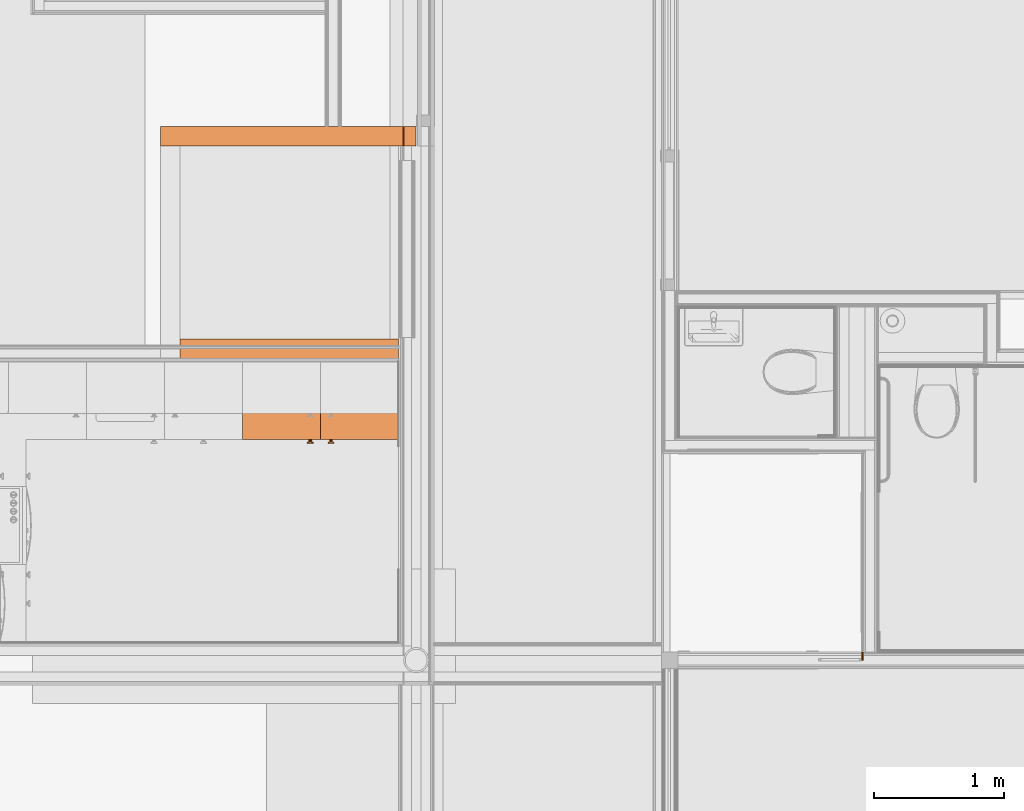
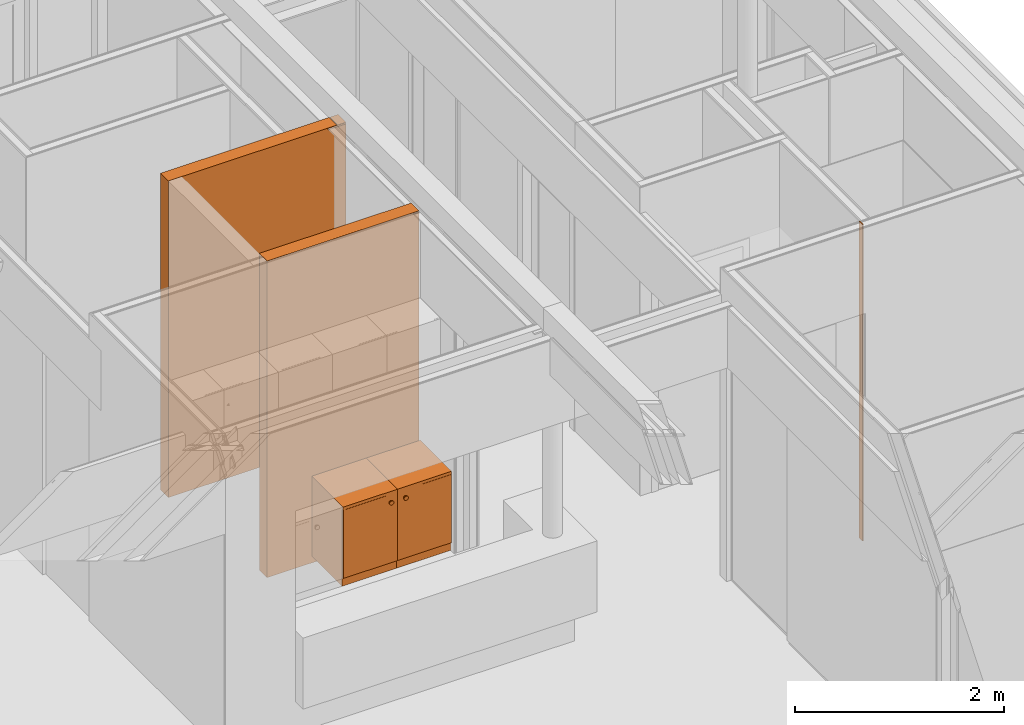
# One storey, part 156 of 165: 5 proxies.
"""IFC2X3 building model written with IfcOpenShell, lengths in millimetres."""

from ifc_helpers import new_model, entity, si_unit, converted_unit, derived_unit, money_unit, direction, frame, origin_with_axes, place, context, subcontext, project, spatial, faceted_brep, material, type_object, element, save


model = new_model("IFC2X3")

# Units and contexts
model_context = context("Model", 3, precision=0.01, world=origin_with_axes(), true_north=direction((0.0, 1.0)))
body_context = subcontext(model_context, "Body", "Model", "MODEL_VIEW")
ifc_project = project(units=[si_unit("LENGTHUNIT", "METRE", prefix="MILLI"), si_unit("AREAUNIT", "SQUARE_METRE"), si_unit("VOLUMEUNIT", "CUBIC_METRE"), converted_unit("PLANEANGLEUNIT", "DEGREE", entity("IfcPlaneAngleMeasure", 0.0174532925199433), si_unit("PLANEANGLEUNIT", "RADIAN"), dimensions=[0, 0, 0, 0, 0, 0, 0]), money_unit("EUR"), converted_unit("TIMEUNIT", "Year", entity("IfcTimeMeasure", 31556926.0), si_unit("TIMEUNIT", "SECOND"), dimensions=[0, 0, 1, 0, 0, 0, 0]), si_unit("MASSUNIT", "GRAM", prefix="KILO"), si_unit("THERMODYNAMICTEMPERATUREUNIT", "DEGREE_CELSIUS"), si_unit("LUMINOUSINTENSITYUNIT", "LUMEN"), si_unit("ENERGYUNIT", "JOULE", prefix="MEGA"), derived_unit("THERMALCONDUCTANCEUNIT", [(si_unit("POWERUNIT", "WATT"), 1), (si_unit("LENGTHUNIT", "METRE"), -1), (si_unit("THERMODYNAMICTEMPERATUREUNIT", "KELVIN"), -1)]), derived_unit("SPECIFICHEATCAPACITYUNIT", [(si_unit("ENERGYUNIT", "JOULE"), 1), (si_unit("MASSUNIT", "GRAM", prefix="KILO"), -1), (si_unit("THERMODYNAMICTEMPERATUREUNIT", "KELVIN"), -1)]), derived_unit("MASSDENSITYUNIT", [(si_unit("MASSUNIT", "GRAM", prefix="KILO"), 1), (si_unit("VOLUMEUNIT", "CUBIC_METRE"), -1)])], contexts=[model_context])

# Site, building, storey
site_placement = place(None, origin_with_axes())
site = spatial("IfcSite", under=ifc_project, at=site_placement, Name="Site", CompositionType="ELEMENT")
building_placement = place(site_placement, origin_with_axes())
building = spatial("IfcBuilding", under=site, at=building_placement, Name="Naam gebouw", CompositionType="ELEMENT")
storey_placement = place(building_placement, origin_with_axes())
storey = spatial("IfcBuildingStorey", under=building, at=storey_placement, Name="Begane grond", CompositionType="ELEMENT", Elevation=0.0)

# Proxies
ifc_material_1 = material(Name="Steen - Kalkzandsteen C")
building_element_proxy_type_1 = type_object("IfcBuildingElementProxyType", Name="KZ 150 150", PredefinedType="NOTDEFINED")
proxy_1_placement = place(storey_placement, frame((22684.99903999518, 13279.99770206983, -100.0), z_axis=(0.0, 0.0, 1.0), x_axis=(1.0, 0.0, 0.0)))
element("IfcBuildingElementProxy", 1, at=proxy_1_placement, inside=storey, type_object=building_element_proxy_type_1, material=ifc_material_1, Name="f1 Gebonden met kalk_Wand-x", context=body_context, shape_type="Brep", body=[
    faceted_brep([(1680.0, -150.0000000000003, 3700.0), (1680.0, -150.0000000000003, 3695.000029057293), (1680.0, 0.0, 3695.000029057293), (1680.0, 0.0, 3700.0), (1614.999999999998, -150.0000000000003, 3680.000029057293), (1614.999999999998, -150.0000000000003, 3695.000029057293), (0.0, -150.0000000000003, 3700.0), (0.0, -150.0000000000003, 0.0), (1680.0, -150.0000000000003, 0.0), (1680.0, -150.0000000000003, 3680.000029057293), (1614.999999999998, 0.0, 3695.000029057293), (1614.999999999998, 0.0, 3680.000029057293), (1680.0, 0.0, 3680.000029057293), (1680.0, 0.0, 0.0), (0.0, 0.0, 0.0), (0.0, 0.0, 3700.0)], [[[0, 1, 2, 3]], [[4, 5, 1, 0, 6, 7, 8, 9]], [[5, 10, 2, 1]], [[10, 11, 12, 13, 14, 15, 3, 2]], [[15, 6, 0, 3]], [[4, 11, 10, 5]], [[14, 7, 6, 15]], [[8, 7, 14, 13]], [[13, 12, 9, 8]], [[4, 9, 12, 11]]]),
])
proxy_2_placement = place(storey_placement, frame((24498.99903999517, 14759.99770206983, -100.0), z_axis=(0.0, 0.0, 1.0), x_axis=(-1.0, 0.0, 0.0)))
element("IfcBuildingElementProxy", 2, at=proxy_2_placement, inside=storey, type_object=building_element_proxy_type_1, material=ifc_material_1, Name="f1 Gebonden met kalk_Wand-x", context=body_context, shape_type="Brep", body=[
    faceted_brep([(99.99999999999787, -150.0000000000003, 3695.000029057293), (198.9999999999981, -150.0000000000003, 3695.000029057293), (198.9999999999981, -150.0000000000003, 3680.000029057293), (0.0, -150.0000000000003, 3680.000029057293), (0.0, -150.0000000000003, 0.0), (1963.999999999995, -150.0000000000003, 0.0), (1963.999999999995, -150.0000000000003, 3700.0), (811.4999999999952, -149.9999999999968, 3700.0), (661.4999999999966, -149.9999999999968, 3700.0), (99.99999999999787, -150.0000000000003, 3700.0), (198.9999999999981, 0.0, 3695.000029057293), (99.99999999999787, 0.0, 3695.000029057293), (198.9999999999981, 0.0, 3680.000029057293), (0.0, 0.0, 3680.000029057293), (0.0, 0.0, 0.0), (1963.999999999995, 0.0, 0.0), (1963.999999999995, 0.0, 3700.0), (133.9999999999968, 0.0, 3700.0), (99.99999999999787, 0.0, 3700.0), (1813.999999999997, 0.0, 3700.0)], [[[0, 1, 2, 3, 4, 5, 6, 7, 8, 9]], [[10, 1, 0, 11]], [[12, 2, 1, 10]], [[12, 13, 3, 2]], [[4, 3, 13, 14]], [[4, 14, 15, 5]], [[5, 15, 16, 6]], [[17, 18, 9, 8, 7, 6, 16, 19]], [[11, 0, 9, 18]], [[10, 11, 18, 17, 19, 16, 15, 14, 13, 12]]]),
    faceted_brep([(0.0, 0.0, 3700.0), (0.0, 0.0, 3695.000029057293), (0.0, -150.0000000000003, 3695.000029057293), (0.0, -150.0000000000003, 3700.0), (93.99999999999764, 0.0, 3700.0), (93.99999999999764, 0.0, 3695.000029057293), (93.99999999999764, -150.0000000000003, 3695.000029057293), (93.99999999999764, -150.0000000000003, 3700.0)], [[[0, 1, 2, 3]], [[4, 5, 1, 0]], [[5, 6, 2, 1]], [[2, 6, 7, 3]], [[3, 7, 4, 0]], [[5, 4, 7, 6]]]),
])
building_element_proxy_type_2 = type_object("IfcBuildingElementProxyType", Name="Onderkast recht 26", PredefinedType="NOTDEFINED")
proxy_3_placement = place(storey_placement, frame((23164.99903999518, 13104.99770206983, 0.0), z_axis=(0.0, 0.0, 1.0), x_axis=(1.0, 0.0, 0.0)))
element("IfcBuildingElementProxy", 3, at=proxy_3_placement, inside=storey, type_object=building_element_proxy_type_2, Name="_Leeg", context=body_context, shape_type="Brep", body=[
    faceted_brep([(0.0, -600.0, 900.0), (600.0, -600.0, 900.0), (600.0, -600.0, 935.0), (0.0, -600.0, 935.0), (0.0, 0.0, 900.0), (600.0, 0.0, 900.0), (600.0, 0.0, 935.0), (0.0, 0.0, 935.0)], [[[0, 1, 2, 3]], [[0, 4, 5, 1]], [[1, 5, 6, 2]], [[3, 2, 6, 7]], [[4, 0, 3, 7]], [[5, 4, 7, 6]]]),
    faceted_brep([(531.8176930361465, -600.0, 816.9162218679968), (531.2763114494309, -600.0, 814.895758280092), (530.3923048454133, -600.0, 813.0), (529.1925333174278, -600.0, 811.2865486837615), (527.7134513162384, -600.0, 809.8074666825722), (526.0, -600.0, 808.6076951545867), (524.104241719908, -600.0, 807.7236885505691), (522.0837781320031, -600.0, 807.1823069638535), (520.0, -600.0, 806.9999999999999), (517.9162218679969, -600.0, 807.1823069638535), (515.8957582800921, -600.0, 807.7236885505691), (514.0, -600.0, 808.6076951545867), (512.2865486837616, -600.0, 809.8074666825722), (510.8074666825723, -600.0, 811.2865486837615), (509.6076951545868, -600.0, 813.0), (508.7236885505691, -600.0, 814.895758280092), (508.1823069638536, -600.0, 816.9162218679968), (508.0, -600.0, 819.0), (508.1823069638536, -600.0, 821.0837781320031), (508.7236885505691, -600.0, 823.1042417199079), (509.6076951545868, -600.0, 825.0), (510.8074666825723, -600.0, 826.7134513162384), (512.2865486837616, -600.0, 828.1925333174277), (514.0, -600.0, 829.3923048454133), (515.8957582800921, -600.0, 830.2763114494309), (517.9162218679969, -600.0, 830.8176930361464), (520.0, -600.0, 831.0), (522.0837781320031, -600.0, 830.8176930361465), (524.104241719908, -600.0, 830.2763114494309), (526.0, -600.0, 829.3923048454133), (527.7134513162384, -600.0, 828.1925333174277), (529.1925333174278, -600.0, 826.7134513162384), (530.3923048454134, -600.0, 825.0), (531.2763114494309, -600.0, 823.1042417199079), (531.8176930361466, -600.0, 821.0837781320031), (532.0, -600.0, 819.0), (531.8176930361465, -620.0, 816.9162218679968), (531.2763114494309, -620.0, 814.895758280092), (530.3923048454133, -620.0, 813.0), (529.1925333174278, -620.0, 811.2865486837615), (527.7134513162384, -620.0, 809.8074666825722), (526.0, -620.0, 808.6076951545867), (524.104241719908, -620.0, 807.7236885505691), (522.0837781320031, -620.0, 807.1823069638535), (520.0, -620.0, 806.9999999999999), (517.9162218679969, -620.0, 807.1823069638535), (515.8957582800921, -620.0, 807.7236885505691), (514.0, -620.0, 808.6076951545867), (512.2865486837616, -620.0, 809.8074666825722), (510.8074666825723, -620.0, 811.2865486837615), (509.6076951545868, -620.0, 813.0), (508.7236885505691, -620.0, 814.895758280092), (508.1823069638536, -620.0, 816.9162218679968), (508.0, -620.0, 819.0), (508.1823069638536, -620.0, 821.0837781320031), (508.7236885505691, -620.0, 823.1042417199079), (509.6076951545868, -620.0, 825.0), (510.8074666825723, -620.0, 826.7134513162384), (512.2865486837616, -620.0, 828.1925333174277), (514.0, -620.0, 829.3923048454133), (515.8957582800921, -620.0, 830.2763114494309), (517.9162218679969, -620.0, 830.8176930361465), (520.0, -620.0, 831.0), (522.0837781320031, -620.0, 830.8176930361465), (524.104241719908, -620.0, 830.2763114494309), (526.0, -620.0, 829.3923048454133), (527.7134513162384, -620.0, 828.1925333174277), (529.1925333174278, -620.0, 826.7134513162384), (530.3923048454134, -620.0, 825.0), (531.2763114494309, -620.0, 823.1042417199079), (531.8176930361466, -620.0, 821.0837781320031), (532.0, -620.0, 819.0)], [[[0, 1, 2, 3, 4, 5, 6, 7, 8, 9, 10, 11, 12, 13, 14, 15, 16, 17, 18, 19, 20, 21, 22, 23, 24, 25, 26, 27, 28, 29, 30, 31, 32, 33, 34, 35]], [[1, 0, 36, 37]], [[2, 1, 37, 38]], [[3, 2, 38, 39]], [[4, 3, 39, 40]], [[5, 4, 40, 41]], [[6, 5, 41, 42]], [[7, 6, 42, 43]], [[8, 7, 43, 44]], [[9, 8, 44, 45]], [[10, 9, 45, 46]], [[11, 10, 46, 47]], [[12, 11, 47, 48]], [[13, 12, 48, 49]], [[14, 13, 49, 50]], [[15, 14, 50, 51]], [[16, 15, 51, 52]], [[17, 16, 52, 53]], [[18, 17, 53, 54]], [[19, 18, 54, 55]], [[20, 19, 55, 56]], [[21, 20, 56, 57]], [[22, 21, 57, 58]], [[23, 22, 58, 59]], [[24, 23, 59, 60]], [[25, 24, 60, 61]], [[26, 25, 61, 62]], [[27, 26, 62, 63]], [[28, 27, 63, 64]], [[29, 28, 64, 65]], [[30, 29, 65, 66]], [[31, 30, 66, 67]], [[32, 31, 67, 68]], [[33, 32, 68, 69]], [[34, 33, 69, 70]], [[35, 34, 70, 71]], [[0, 35, 71, 36]], [[36, 71, 70, 69, 68, 67, 66, 65, 64, 63, 62, 61, 60, 59, 58, 57, 56, 55, 54, 53, 52, 51, 50, 49, 48, 47, 46, 45, 44, 43, 42, 41, 40, 39, 38, 37]]]),
    faceted_brep([(543.635386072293, -620.0, 814.8324437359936), (542.5526228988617, -620.0, 810.7915165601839), (540.7846096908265, -620.0, 806.9999999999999), (538.3850666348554, -620.0, 803.573097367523), (535.426902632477, -620.0, 800.6149333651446), (532.0, -620.0, 798.2153903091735), (528.2084834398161, -620.0, 796.4473771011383), (524.1675562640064, -620.0, 795.364613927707), (520.0, -620.0, 794.9999999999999), (515.8324437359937, -620.0, 795.364613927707), (511.7915165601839, -620.0, 796.4473771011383), (508.0, -620.0, 798.2153903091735), (504.5730973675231, -620.0, 800.6149333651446), (501.6149333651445, -620.0, 803.573097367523), (499.2153903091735, -620.0, 806.9999999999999), (497.4473771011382, -620.0, 810.7915165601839), (496.364613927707, -620.0, 814.8324437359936), (496.0000000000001, -620.0, 819.0), (496.364613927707, -620.0, 823.1675562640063), (497.4473771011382, -620.0, 827.2084834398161), (499.2153903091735, -620.0, 831.0), (501.6149333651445, -620.0, 834.4269026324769), (504.5730973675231, -620.0, 837.3850666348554), (508.0, -620.0, 839.7846096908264), (511.7915165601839, -620.0, 841.5526228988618), (515.8324437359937, -620.0, 842.6353860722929), (520.0, -620.0, 843.0), (524.1675562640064, -620.0, 842.6353860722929), (528.2084834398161, -620.0, 841.5526228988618), (532.0, -620.0, 839.7846096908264), (535.426902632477, -620.0, 837.3850666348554), (538.3850666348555, -620.0, 834.4269026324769), (540.7846096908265, -620.0, 831.0), (542.5526228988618, -620.0, 827.2084834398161), (543.635386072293, -620.0, 823.1675562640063), (544.0, -620.0, 819.0), (543.635386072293, -630.0, 814.8324437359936), (542.5526228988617, -630.0, 810.7915165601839), (540.7846096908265, -630.0, 806.9999999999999), (538.3850666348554, -630.0, 803.573097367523), (535.426902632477, -630.0, 800.6149333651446), (532.0, -630.0, 798.2153903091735), (528.2084834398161, -630.0, 796.4473771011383), (524.1675562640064, -630.0, 795.364613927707), (520.0, -630.0, 794.9999999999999), (515.8324437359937, -630.0, 795.364613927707), (511.7915165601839, -630.0, 796.4473771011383), (508.0, -630.0, 798.2153903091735), (504.5730973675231, -630.0, 800.6149333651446), (501.6149333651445, -630.0, 803.573097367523), (499.2153903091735, -630.0, 806.9999999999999), (497.4473771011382, -630.0, 810.7915165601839), (496.364613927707, -630.0, 814.8324437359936), (496.0000000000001, -630.0, 819.0), (496.364613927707, -630.0, 823.1675562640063), (497.4473771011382, -630.0, 827.2084834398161), (499.2153903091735, -630.0, 831.0), (501.6149333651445, -630.0, 834.4269026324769), (504.5730973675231, -630.0, 837.3850666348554), (508.0, -630.0, 839.7846096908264), (511.7915165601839, -630.0, 841.5526228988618), (515.8324437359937, -630.0, 842.6353860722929), (520.0, -630.0, 843.0), (524.1675562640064, -630.0, 842.6353860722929), (528.2084834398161, -630.0, 841.5526228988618), (532.0, -630.0, 839.7846096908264), (535.426902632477, -630.0, 837.3850666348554), (538.3850666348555, -630.0, 834.4269026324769), (540.7846096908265, -630.0, 831.0), (542.5526228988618, -630.0, 827.2084834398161), (543.635386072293, -630.0, 823.1675562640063), (544.0, -630.0, 819.0)], [[[0, 1, 2, 3, 4, 5, 6, 7, 8, 9, 10, 11, 12, 13, 14, 15, 16, 17, 18, 19, 20, 21, 22, 23, 24, 25, 26, 27, 28, 29, 30, 31, 32, 33, 34, 35]], [[1, 0, 36, 37]], [[2, 1, 37, 38]], [[3, 2, 38, 39]], [[4, 3, 39, 40]], [[5, 4, 40, 41]], [[6, 5, 41, 42]], [[7, 6, 42, 43]], [[8, 7, 43, 44]], [[9, 8, 44, 45]], [[10, 9, 45, 46]], [[11, 10, 46, 47]], [[12, 11, 47, 48]], [[13, 12, 48, 49]], [[14, 13, 49, 50]], [[15, 14, 50, 51]], [[16, 15, 51, 52]], [[17, 16, 52, 53]], [[18, 17, 53, 54]], [[19, 18, 54, 55]], [[20, 19, 55, 56]], [[21, 20, 56, 57]], [[22, 21, 57, 58]], [[23, 22, 58, 59]], [[24, 23, 59, 60]], [[25, 24, 60, 61]], [[26, 25, 61, 62]], [[27, 26, 62, 63]], [[28, 27, 63, 64]], [[29, 28, 64, 65]], [[30, 29, 65, 66]], [[31, 30, 66, 67]], [[32, 31, 67, 68]], [[33, 32, 68, 69]], [[34, 33, 69, 70]], [[35, 34, 70, 71]], [[0, 35, 71, 36]], [[36, 71, 70, 69, 68, 67, 66, 65, 64, 63, 62, 61, 60, 59, 58, 57, 56, 55, 54, 53, 52, 51, 50, 49, 48, 47, 46, 45, 44, 43, 42, 41, 40, 39, 38, 37]]]),
    faceted_brep([(1.0, -582.0, 101.0), (599.0, -582.0, 101.0), (599.0, -600.0, 101.0), (1.0, -600.0, 101.0), (1.0, -582.0, 899.0), (599.0, -582.0, 899.0), (599.0, -599.9999999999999, 899.0), (1.0, -599.9999999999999, 899.0)], [[[0, 1, 2, 3]], [[0, 4, 5, 1]], [[1, 5, 6, 2]], [[3, 2, 6, 7]], [[4, 0, 3, 7]], [[5, 4, 7, 6]]]),
    faceted_brep([(18.0, -582.0, 100.0), (582.0, -582.0, 100.0), (582.0, -582.0, 118.0), (18.0, -582.0, 118.0), (18.0, 0.0, 100.0), (582.0, 0.0, 100.0), (582.0, 0.0, 118.0), (18.0, 0.0, 118.0)], [[[0, 1, 2, 3]], [[0, 4, 5, 1]], [[1, 5, 6, 2]], [[3, 2, 6, 7]], [[4, 0, 3, 7]], [[5, 4, 7, 6]]]),
    faceted_brep([(18.0, -582.0, 882.0), (18.0, -522.0, 882.0), (582.0, -522.0, 882.0), (582.0, -582.0, 882.0), (18.0, -582.0, 900.0), (18.0, -522.0, 900.0), (582.0, -522.0, 900.0), (582.0, -582.0, 900.0)], [[[0, 1, 2, 3]], [[0, 4, 5, 1]], [[1, 5, 6, 2]], [[3, 2, 6, 7]], [[4, 0, 3, 7]], [[5, 4, 7, 6]]]),
    faceted_brep([(582.0, 0.0, 882.0), (582.0, -60.0, 882.0), (18.0, -60.0, 882.0), (18.0, 0.0, 882.0), (582.0, 0.0, 900.0), (582.0, -60.0, 900.0), (18.0, -60.0, 900.0), (18.0, 0.0, 900.0)], [[[0, 1, 2, 3]], [[0, 4, 5, 1]], [[1, 5, 6, 2]], [[3, 2, 6, 7]], [[4, 0, 3, 7]], [[5, 4, 7, 6]]]),
    faceted_brep([(0.0, 0.0, 100.0), (0.0, -582.0, 100.0), (0.0, -582.0, 900.0), (0.0, 0.0, 900.0), (18.0, 0.0, 100.0), (18.0, -582.0, 100.0), (18.0, -582.0, 900.0), (18.0, 0.0, 900.0)], [[[0, 1, 2, 3]], [[0, 4, 5, 1]], [[1, 5, 6, 2]], [[3, 2, 6, 7]], [[4, 0, 3, 7]], [[5, 4, 7, 6]]]),
    faceted_brep([(600.0, -582.0, 100.0), (600.0, 0.0, 100.0), (600.0, 0.0, 900.0), (600.0, -582.0, 900.0), (582.0, -582.0, 100.0), (582.0, 0.0, 100.0), (582.0, 0.0, 900.0), (582.0, -582.0, 900.0)], [[[0, 1, 2, 3]], [[0, 4, 5, 1]], [[1, 5, 6, 2]], [[3, 2, 6, 7]], [[4, 0, 3, 7]], [[5, 4, 7, 6]]]),
    faceted_brep([(582.0, -9.0, 118.0), (18.00000000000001, -9.0, 118.0), (18.00000000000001, -9.0, 882.0), (582.0, -9.0, 882.0), (582.0, -18.0, 118.0), (18.00000000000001, -18.0, 118.0), (18.00000000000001, -18.0, 882.0), (582.0, -18.0, 882.0)], [[[0, 1, 2, 3]], [[0, 4, 5, 1]], [[1, 5, 6, 2]], [[3, 2, 6, 7]], [[4, 0, 3, 7]], [[5, 4, 7, 6]]]),
    faceted_brep([(0.0, -582.0, 0.0), (600.0, -582.0, 0.0), (600.0, -582.0, 100.0), (0.0, -582.0, 100.0), (0.0, 0.0, 0.0), (600.0, 0.0, 0.0), (600.0, 0.0, 100.0), (0.0, 0.0, 100.0)], [[[0, 1, 2, 3]], [[0, 4, 5, 1]], [[1, 5, 6, 2]], [[3, 2, 6, 7]], [[4, 0, 3, 7]], [[5, 4, 7, 6]]]),
])
proxy_4_placement = place(storey_placement, frame((24364.99903999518, 13104.99770206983, 0.0), z_axis=(0.0, 0.0, 1.0), x_axis=(1.0, 0.0, 0.0)))
element("IfcBuildingElementProxy", 4, at=proxy_4_placement, inside=storey, type_object=building_element_proxy_type_2, Name="_Leeg", context=body_context, shape_type="Brep", body=[
    faceted_brep([(0.0, -600.0, 900.0), (0.0, -600.0, 935.0), (-600.0, -600.0, 935.0), (-600.0, -600.0, 900.0), (0.0, 0.0, 900.0), (0.0, 0.0, 935.0), (-600.0, 0.0, 935.0), (-600.0, 0.0, 900.0)], [[[0, 1, 2, 3]], [[4, 5, 1, 0]], [[1, 5, 6, 2]], [[3, 2, 6, 7]], [[0, 3, 7, 4]], [[7, 6, 5, 4]]]),
    faceted_brep([(-531.8176930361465, -600.0, 816.9162218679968), (-532.0, -600.0, 819.0), (-531.8176930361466, -600.0, 821.0837781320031), (-531.2763114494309, -600.0, 823.1042417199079), (-530.3923048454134, -600.0, 825.0), (-529.1925333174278, -600.0, 826.7134513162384), (-527.7134513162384, -600.0, 828.1925333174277), (-526.0, -600.0, 829.3923048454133), (-524.104241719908, -600.0, 830.2763114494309), (-522.0837781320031, -600.0, 830.8176930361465), (-520.0, -600.0, 831.0), (-517.9162218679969, -600.0, 830.8176930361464), (-515.8957582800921, -600.0, 830.2763114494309), (-514.0, -600.0, 829.3923048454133), (-512.2865486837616, -600.0, 828.1925333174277), (-510.8074666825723, -600.0, 826.7134513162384), (-509.6076951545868, -600.0, 825.0), (-508.7236885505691, -600.0, 823.1042417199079), (-508.1823069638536, -600.0, 821.0837781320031), (-508.0, -600.0, 819.0), (-508.1823069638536, -600.0, 816.9162218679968), (-508.7236885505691, -600.0, 814.895758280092), (-509.6076951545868, -600.0, 813.0), (-510.8074666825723, -600.0, 811.2865486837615), (-512.2865486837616, -600.0, 809.8074666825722), (-514.0, -600.0, 808.6076951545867), (-515.8957582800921, -600.0, 807.7236885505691), (-517.9162218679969, -600.0, 807.1823069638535), (-520.0, -600.0, 806.9999999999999), (-522.0837781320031, -600.0, 807.1823069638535), (-524.104241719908, -600.0, 807.7236885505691), (-526.0, -600.0, 808.6076951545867), (-527.7134513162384, -600.0, 809.8074666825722), (-529.1925333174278, -600.0, 811.2865486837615), (-530.3923048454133, -600.0, 813.0), (-531.2763114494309, -600.0, 814.895758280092), (-531.8176930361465, -620.0, 816.9162218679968), (-532.0, -620.0, 819.0), (-531.8176930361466, -620.0, 821.0837781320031), (-531.2763114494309, -620.0, 823.1042417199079), (-530.3923048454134, -620.0, 825.0), (-529.1925333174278, -620.0, 826.7134513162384), (-527.7134513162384, -620.0, 828.1925333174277), (-526.0, -620.0, 829.3923048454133), (-524.104241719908, -620.0, 830.2763114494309), (-522.0837781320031, -620.0, 830.8176930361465), (-520.0, -620.0, 831.0), (-517.9162218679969, -620.0, 830.8176930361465), (-515.8957582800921, -620.0, 830.2763114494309), (-514.0, -620.0, 829.3923048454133), (-512.2865486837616, -620.0, 828.1925333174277), (-510.8074666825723, -620.0, 826.7134513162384), (-509.6076951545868, -620.0, 825.0), (-508.7236885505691, -620.0, 823.1042417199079), (-508.1823069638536, -620.0, 821.0837781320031), (-508.0, -620.0, 819.0), (-508.1823069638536, -620.0, 816.9162218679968), (-508.7236885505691, -620.0, 814.895758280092), (-509.6076951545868, -620.0, 813.0), (-510.8074666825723, -620.0, 811.2865486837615), (-512.2865486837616, -620.0, 809.8074666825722), (-514.0, -620.0, 808.6076951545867), (-515.8957582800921, -620.0, 807.7236885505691), (-517.9162218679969, -620.0, 807.1823069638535), (-520.0, -620.0, 806.9999999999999), (-522.0837781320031, -620.0, 807.1823069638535), (-524.104241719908, -620.0, 807.7236885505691), (-526.0, -620.0, 808.6076951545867), (-527.7134513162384, -620.0, 809.8074666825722), (-529.1925333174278, -620.0, 811.2865486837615), (-530.3923048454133, -620.0, 813.0), (-531.2763114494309, -620.0, 814.895758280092)], [[[0, 1, 2, 3, 4, 5, 6, 7, 8, 9, 10, 11, 12, 13, 14, 15, 16, 17, 18, 19, 20, 21, 22, 23, 24, 25, 26, 27, 28, 29, 30, 31, 32, 33, 34, 35]], [[0, 36, 37, 1]], [[1, 37, 38, 2]], [[2, 38, 39, 3]], [[3, 39, 40, 4]], [[4, 40, 41, 5]], [[5, 41, 42, 6]], [[6, 42, 43, 7]], [[7, 43, 44, 8]], [[8, 44, 45, 9]], [[9, 45, 46, 10]], [[10, 46, 47, 11]], [[11, 47, 48, 12]], [[12, 48, 49, 13]], [[13, 49, 50, 14]], [[14, 50, 51, 15]], [[15, 51, 52, 16]], [[16, 52, 53, 17]], [[17, 53, 54, 18]], [[18, 54, 55, 19]], [[19, 55, 56, 20]], [[20, 56, 57, 21]], [[21, 57, 58, 22]], [[22, 58, 59, 23]], [[23, 59, 60, 24]], [[24, 60, 61, 25]], [[25, 61, 62, 26]], [[26, 62, 63, 27]], [[27, 63, 64, 28]], [[28, 64, 65, 29]], [[29, 65, 66, 30]], [[30, 66, 67, 31]], [[31, 67, 68, 32]], [[32, 68, 69, 33]], [[33, 69, 70, 34]], [[34, 70, 71, 35]], [[35, 71, 36, 0]], [[36, 71, 70, 69, 68, 67, 66, 65, 64, 63, 62, 61, 60, 59, 58, 57, 56, 55, 54, 53, 52, 51, 50, 49, 48, 47, 46, 45, 44, 43, 42, 41, 40, 39, 38, 37]]]),
    faceted_brep([(-543.635386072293, -620.0, 814.8324437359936), (-544.0, -620.0, 819.0), (-543.635386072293, -620.0, 823.1675562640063), (-542.5526228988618, -620.0, 827.2084834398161), (-540.7846096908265, -620.0, 831.0), (-538.3850666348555, -620.0, 834.4269026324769), (-535.426902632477, -620.0, 837.3850666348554), (-532.0, -620.0, 839.7846096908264), (-528.2084834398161, -620.0, 841.5526228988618), (-524.1675562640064, -620.0, 842.6353860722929), (-520.0, -620.0, 843.0), (-515.8324437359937, -620.0, 842.6353860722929), (-511.7915165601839, -620.0, 841.5526228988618), (-508.0, -620.0, 839.7846096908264), (-504.5730973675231, -620.0, 837.3850666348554), (-501.6149333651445, -620.0, 834.4269026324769), (-499.2153903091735, -620.0, 831.0), (-497.4473771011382, -620.0, 827.2084834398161), (-496.364613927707, -620.0, 823.1675562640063), (-496.0000000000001, -620.0, 819.0), (-496.364613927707, -620.0, 814.8324437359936), (-497.4473771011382, -620.0, 810.7915165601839), (-499.2153903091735, -620.0, 806.9999999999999), (-501.6149333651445, -620.0, 803.573097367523), (-504.5730973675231, -620.0, 800.6149333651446), (-508.0, -620.0, 798.2153903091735), (-511.7915165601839, -620.0, 796.4473771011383), (-515.8324437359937, -620.0, 795.364613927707), (-520.0, -620.0, 794.9999999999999), (-524.1675562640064, -620.0, 795.364613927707), (-528.2084834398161, -620.0, 796.4473771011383), (-532.0, -620.0, 798.2153903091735), (-535.426902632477, -620.0, 800.6149333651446), (-538.3850666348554, -620.0, 803.573097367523), (-540.7846096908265, -620.0, 806.9999999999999), (-542.5526228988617, -620.0, 810.7915165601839), (-543.635386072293, -630.0, 814.8324437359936), (-544.0, -630.0, 819.0), (-543.635386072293, -630.0, 823.1675562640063), (-542.5526228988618, -630.0, 827.2084834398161), (-540.7846096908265, -630.0, 831.0), (-538.3850666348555, -630.0, 834.4269026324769), (-535.426902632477, -630.0, 837.3850666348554), (-532.0, -630.0, 839.7846096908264), (-528.2084834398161, -630.0, 841.5526228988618), (-524.1675562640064, -630.0, 842.6353860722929), (-520.0, -630.0, 843.0), (-515.8324437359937, -630.0, 842.6353860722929), (-511.7915165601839, -630.0, 841.5526228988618), (-508.0, -630.0, 839.7846096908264), (-504.5730973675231, -630.0, 837.3850666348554), (-501.6149333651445, -630.0, 834.4269026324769), (-499.2153903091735, -630.0, 831.0), (-497.4473771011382, -630.0, 827.2084834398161), (-496.364613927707, -630.0, 823.1675562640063), (-496.0000000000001, -630.0, 819.0), (-496.364613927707, -630.0, 814.8324437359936), (-497.4473771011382, -630.0, 810.7915165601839), (-499.2153903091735, -630.0, 806.9999999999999), (-501.6149333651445, -630.0, 803.573097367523), (-504.5730973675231, -630.0, 800.6149333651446), (-508.0, -630.0, 798.2153903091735), (-511.7915165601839, -630.0, 796.4473771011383), (-515.8324437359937, -630.0, 795.364613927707), (-520.0, -630.0, 794.9999999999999), (-524.1675562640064, -630.0, 795.364613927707), (-528.2084834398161, -630.0, 796.4473771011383), (-532.0, -630.0, 798.2153903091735), (-535.426902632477, -630.0, 800.6149333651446), (-538.3850666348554, -630.0, 803.573097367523), (-540.7846096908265, -630.0, 806.9999999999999), (-542.5526228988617, -630.0, 810.7915165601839)], [[[0, 1, 2, 3, 4, 5, 6, 7, 8, 9, 10, 11, 12, 13, 14, 15, 16, 17, 18, 19, 20, 21, 22, 23, 24, 25, 26, 27, 28, 29, 30, 31, 32, 33, 34, 35]], [[0, 36, 37, 1]], [[1, 37, 38, 2]], [[2, 38, 39, 3]], [[3, 39, 40, 4]], [[4, 40, 41, 5]], [[5, 41, 42, 6]], [[6, 42, 43, 7]], [[7, 43, 44, 8]], [[8, 44, 45, 9]], [[9, 45, 46, 10]], [[10, 46, 47, 11]], [[11, 47, 48, 12]], [[12, 48, 49, 13]], [[13, 49, 50, 14]], [[14, 50, 51, 15]], [[15, 51, 52, 16]], [[16, 52, 53, 17]], [[17, 53, 54, 18]], [[18, 54, 55, 19]], [[19, 55, 56, 20]], [[20, 56, 57, 21]], [[21, 57, 58, 22]], [[22, 58, 59, 23]], [[23, 59, 60, 24]], [[24, 60, 61, 25]], [[25, 61, 62, 26]], [[26, 62, 63, 27]], [[27, 63, 64, 28]], [[28, 64, 65, 29]], [[29, 65, 66, 30]], [[30, 66, 67, 31]], [[31, 67, 68, 32]], [[32, 68, 69, 33]], [[33, 69, 70, 34]], [[34, 70, 71, 35]], [[35, 71, 36, 0]], [[36, 71, 70, 69, 68, 67, 66, 65, 64, 63, 62, 61, 60, 59, 58, 57, 56, 55, 54, 53, 52, 51, 50, 49, 48, 47, 46, 45, 44, 43, 42, 41, 40, 39, 38, 37]]]),
    faceted_brep([(-1.0, -582.0, 101.0), (-1.0, -600.0, 101.0), (-599.0, -600.0, 101.0), (-599.0, -582.0, 101.0), (-1.0, -582.0, 899.0), (-1.0, -599.9999999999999, 899.0), (-599.0, -599.9999999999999, 899.0), (-599.0, -582.0, 899.0)], [[[0, 1, 2, 3]], [[4, 5, 1, 0]], [[1, 5, 6, 2]], [[3, 2, 6, 7]], [[0, 3, 7, 4]], [[7, 6, 5, 4]]]),
    faceted_brep([(-18.0, -582.0, 100.0), (-18.0, -582.0, 118.0), (-582.0, -582.0, 118.0), (-582.0, -582.0, 100.0), (-18.0, 0.0, 100.0), (-18.0, 0.0, 118.0), (-582.0, 0.0, 118.0), (-582.0, 0.0, 100.0)], [[[0, 1, 2, 3]], [[4, 5, 1, 0]], [[1, 5, 6, 2]], [[3, 2, 6, 7]], [[0, 3, 7, 4]], [[7, 6, 5, 4]]]),
    faceted_brep([(-18.0, -582.0, 882.0), (-582.0, -582.0, 882.0), (-582.0, -522.0, 882.0), (-18.0, -522.0, 882.0), (-18.0, -582.0, 900.0), (-582.0, -582.0, 900.0), (-582.0, -522.0, 900.0), (-18.0, -522.0, 900.0)], [[[0, 1, 2, 3]], [[4, 5, 1, 0]], [[1, 5, 6, 2]], [[3, 2, 6, 7]], [[0, 3, 7, 4]], [[7, 6, 5, 4]]]),
    faceted_brep([(-582.0, 0.0, 882.0), (-18.0, 0.0, 882.0), (-18.0, -60.0, 882.0), (-582.0, -60.0, 882.0), (-582.0, 0.0, 900.0), (-18.0, 0.0, 900.0), (-18.0, -60.0, 900.0), (-582.0, -60.0, 900.0)], [[[0, 1, 2, 3]], [[4, 5, 1, 0]], [[1, 5, 6, 2]], [[3, 2, 6, 7]], [[0, 3, 7, 4]], [[7, 6, 5, 4]]]),
    faceted_brep([(0.0, 0.0, 100.0), (0.0, 0.0, 900.0), (0.0, -582.0, 900.0), (0.0, -582.0, 100.0), (-18.0, 0.0, 100.0), (-18.0, 0.0, 900.0), (-18.0, -582.0, 900.0), (-18.0, -582.0, 100.0)], [[[0, 1, 2, 3]], [[4, 5, 1, 0]], [[1, 5, 6, 2]], [[3, 2, 6, 7]], [[0, 3, 7, 4]], [[7, 6, 5, 4]]]),
    faceted_brep([(-600.0, -582.0, 100.0), (-600.0, -582.0, 900.0), (-600.0, 0.0, 900.0), (-600.0, 0.0, 100.0), (-582.0, -582.0, 100.0), (-582.0, -582.0, 900.0), (-582.0, 0.0, 900.0), (-582.0, 0.0, 100.0)], [[[0, 1, 2, 3]], [[4, 5, 1, 0]], [[1, 5, 6, 2]], [[3, 2, 6, 7]], [[0, 3, 7, 4]], [[7, 6, 5, 4]]]),
    faceted_brep([(-582.0, -9.0, 118.0), (-582.0, -9.0, 882.0), (-18.00000000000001, -9.0, 882.0), (-18.00000000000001, -9.0, 118.0), (-582.0, -18.0, 118.0), (-582.0, -18.0, 882.0), (-18.00000000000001, -18.0, 882.0), (-18.00000000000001, -18.0, 118.0)], [[[0, 1, 2, 3]], [[4, 5, 1, 0]], [[1, 5, 6, 2]], [[3, 2, 6, 7]], [[0, 3, 7, 4]], [[7, 6, 5, 4]]]),
    faceted_brep([(0.0, -582.0, 0.0), (0.0, -582.0, 100.0), (-600.0, -582.0, 100.0), (-600.0, -582.0, 0.0), (0.0, 0.0, 0.0), (0.0, 0.0, 100.0), (-600.0, 0.0, 100.0), (-600.0, 0.0, 0.0)], [[[0, 1, 2, 3]], [[4, 5, 1, 0]], [[1, 5, 6, 2]], [[3, 2, 6, 7]], [[0, 3, 7, 4]], [[7, 6, 5, 4]]]),
])
ifc_material_2 = material(Name="Hout - Multiplex")
building_element_proxy_type_3 = type_object("IfcBuildingElementProxyType", Name="Hout - Multiplex 12", PredefinedType="NOTDEFINED")
proxy_5_placement = place(storey_placement, frame((27924.99995201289, 10872.50011055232, -100.0), z_axis=(0.0, 0.0, 1.0), x_axis=(6.618815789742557e-07, -0.999999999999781, 0.0)))
element("IfcBuildingElementProxy", 5, at=proxy_5_placement, inside=storey, type_object=building_element_proxy_type_3, material=ifc_material_2, Name="i4 In lagen verlijmd hout_Wand-x", context=body_context, shape_type="Brep", body=[
    faceted_brep([(0.0, 12.00000000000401, 0.0), (62.50000066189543, 12.00000000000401, 0.0), (62.50000066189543, 0.0, 0.0), (0.0, 0.0, 0.0), (0.0, 12.00000000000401, 3700.0), (62.50000066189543, 12.00000000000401, 3700.0), (62.50000066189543, 0.0, 3700.0), (0.0, 0.0, 3700.0)], [[[0, 1, 2, 3]], [[4, 5, 1, 0]], [[2, 1, 5, 6]], [[3, 2, 6, 7]], [[4, 0, 3, 7]], [[7, 6, 5, 4]]]),
])

save(model, "model.ifc")
